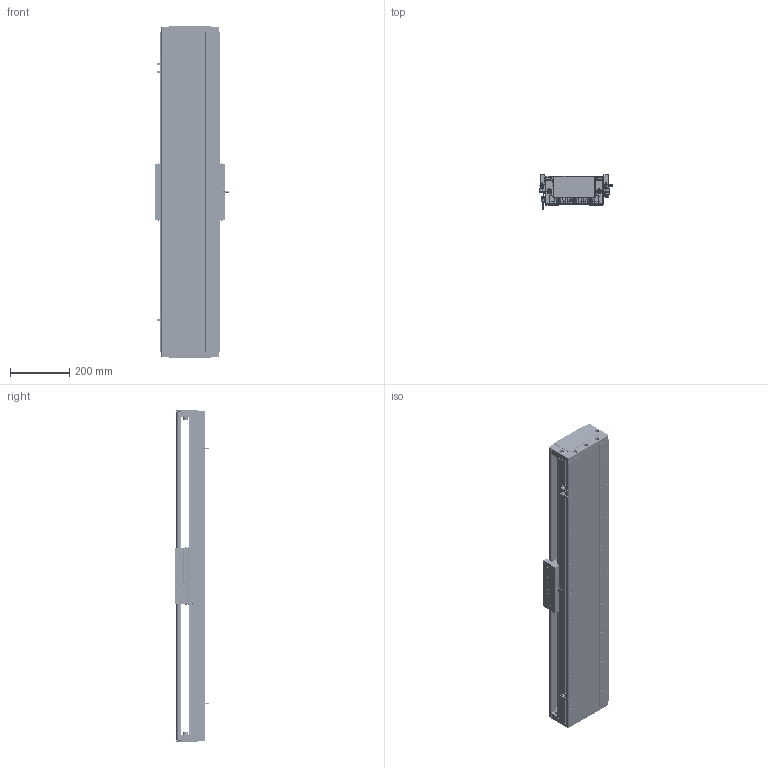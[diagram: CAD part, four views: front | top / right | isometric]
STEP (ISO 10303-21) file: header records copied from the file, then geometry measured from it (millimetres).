
FILE_DESCRIPTION (( 'STEP AP203' ), '1' );
FILE_NAME ('DA-C195-C2-T840-C010-0.2 眻盄萇儂.STEP', '2025-08-15T01:02:58', ( '' ), ( '' ), 'SwSTEP 2.0', 'SolidWorks 2019', '' );
FILE_SCHEMA (( 'CONFIG_CONTROL_DESIGN' ));
Length unit declared in the file: millimetre
Products named in the file (12): DA95-HXJ-00 遣喳砎蝶; IU-CU195-L 菁釱絳寢; 66156-0001-003-00 裔啣; 66156-0001-005-00 光电感应片(默认); 葩璃 DA95-GT-T-00; DA195-DG-H-00  端盖（压铸镂空版）; IU-CU195-L-00 菁釱(L1080); PM-T45ㄗ侂狟ㄘ; DA-C195-C2-T840-C010-0.2 眻盄萇儂; MS200 棠掑喜S315-T240; CU195-C2賑輸-俋楷; LMT黍杅芛
Assembly tree (20 placements, depth 3):
  DA-C195-C2-T840-C010-0.2 眻盄萇儂
    IU-CU195-L 菁釱絳寢
      IU-CU195-L-00 菁釱(L1080)
      葩璃 DA95-GT-T-00  x4
    LMT黍杅芛
    MS200 棠掑喜S315-T240
    PM-T45ㄗ侂狟ㄘ  x3
    66156-0001-005-00 光电感应片(默认)
    DA195-DG-H-00  端盖（压铸镂空版）  x2
    DA95-HXJ-00 遣喳砎蝶  x4
    66156-0001-003-00 裔啣
    CU195-C2賑輸-俋楷
Bounding box: 248 x 115.6 x 1120 mm (x, y, z)
Volume: 7952183.3 mm3; surface area: 2269682.4 mm2
Topology: 58 solids, 130 shells, 5213 faces, 13268 edges, 8057 vertices
Faces by surface type: cylinder 2229, plane 1634, bspline 710, cone 560, torus 44, sphere 36
Entity records: 143159 total; most frequent: CARTESIAN_POINT 44371, ORIENTED_EDGE 20590, DIRECTION 19864, EDGE_CURVE 10295, AXIS2_PLACEMENT_3D 7391, VERTEX_POINT 6487, VECTOR 5082, LINE 5082
